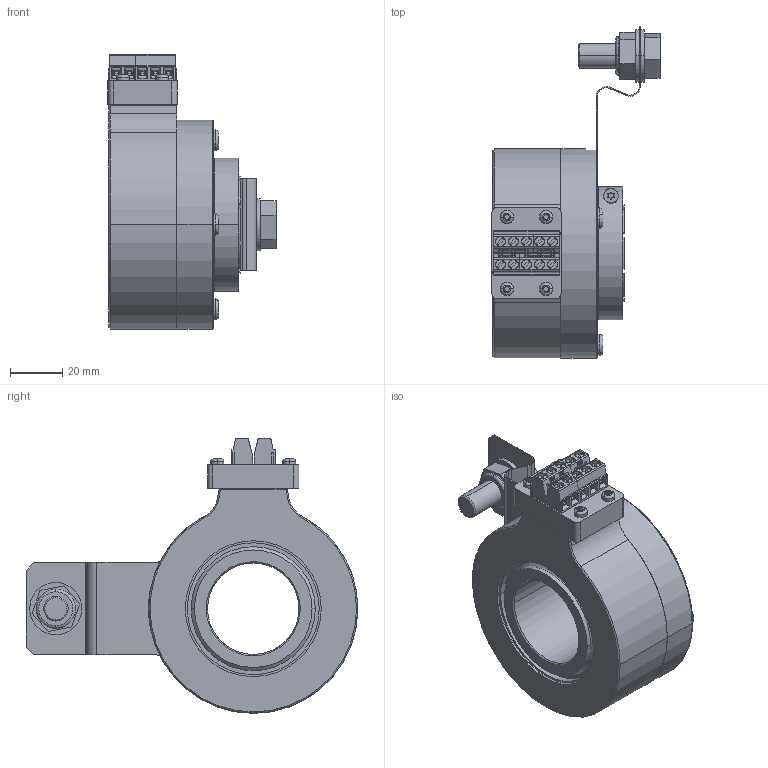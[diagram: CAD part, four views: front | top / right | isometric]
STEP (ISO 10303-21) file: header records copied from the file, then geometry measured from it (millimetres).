
FILE_DESCRIPTION (( 'STEP AP203' ), '1' );
FILE_NAME ('K80I.OXX.XXXXX.XH14835.4XRCF.step', '2025-12-09T07:50:23', ( '' ), ( '' ), 'SwSTEP 2.0', 'SolidWorks 2021', '' );
FILE_SCHEMA (( 'CONFIG_CONTROL_DESIGN' ));
Length unit declared in the file: millimetre
Products named in the file (1): K80I.OXX.XXXXX.XH14835.4XRCF
Bounding box: 64.35 x 127.03 x 105.19 mm (x, y, z)
Volume: 195305.6 mm3; surface area: 73889.8 mm2
Topology: 41 solids, 43 shells, 3200 faces, 8825 edges, 5811 vertices
Faces by surface type: plane 2508, cylinder 608, cone 38, bspline 36, torus 10
Entity records: 103544 total; most frequent: CARTESIAN_POINT 20923, ORIENTED_EDGE 17634, DIRECTION 16329, EDGE_CURVE 8817, VECTOR 7311, LINE 7311, VERTEX_POINT 5811, AXIS2_PLACEMENT_3D 4509
